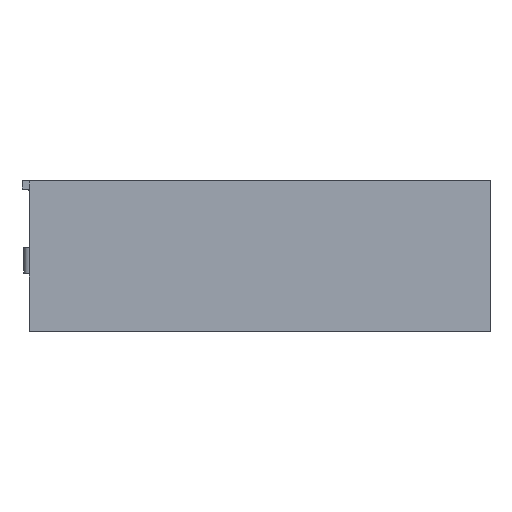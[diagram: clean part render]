
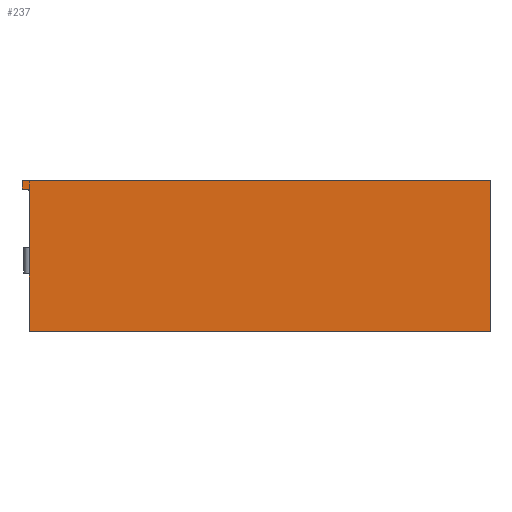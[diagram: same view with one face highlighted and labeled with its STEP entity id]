
A CAD part, top view. The second image highlights one B-rep face of the part: STEP entity #237.
In plain terms, the highlighted planar face has unit normal (0, 0, 1).
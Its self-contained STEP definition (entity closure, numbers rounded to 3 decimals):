
#32 = VERTEX_POINT('',#33);
#33 = CARTESIAN_POINT('',(-2.6,0.,5.54));
#39 = EDGE_CURVE('',#32,#40,#42,.T.);
#40 = VERTEX_POINT('',#41);
#41 = CARTESIAN_POINT('',(205.4,0.,5.54));
#42 = LINE('',#43,#44);
#43 = CARTESIAN_POINT('',(0.,0.,5.54));
#44 = VECTOR('',#45,1.);
#45 = DIRECTION('',(1.,0.,0.));
#145 = VERTEX_POINT('',#146);
#146 = CARTESIAN_POINT('',(-3.2,-0.6,5.54));
#152 = EDGE_CURVE('',#32,#145,#153,.T.);
#153 = CIRCLE('',#154,0.6);
#154 = AXIS2_PLACEMENT_3D('',#155,#156,#157);
#155 = CARTESIAN_POINT('',(-2.6,-0.6,5.54));
#156 = DIRECTION('',(-0.,0.,1.));
#157 = DIRECTION('',(0.,-1.,0.));
#168 = EDGE_CURVE('',#169,#171,#173,.T.);
#169 = VERTEX_POINT('',#170);
#170 = CARTESIAN_POINT('',(0.,-67.02,5.54));
#171 = VERTEX_POINT('',#172);
#172 = CARTESIAN_POINT('',(0.,-4.4,5.54));
#173 = LINE('',#174,#175);
#174 = CARTESIAN_POINT('',(0.,-67.02,5.54));
#175 = VECTOR('',#176,1.);
#176 = DIRECTION('',(0.,1.,0.));
#237 = ADVANCED_FACE('',(#238),#289,.T.);
#238 = FACE_BOUND('',#239,.T.);
#239 = EDGE_LOOP('',(#240,#241,#242,#250,#259,#267,#274,#275,#283));
#240 = ORIENTED_EDGE('',*,*,#39,.F.);
#241 = ORIENTED_EDGE('',*,*,#152,.T.);
#242 = ORIENTED_EDGE('',*,*,#243,.F.);
#243 = EDGE_CURVE('',#244,#145,#246,.T.);
#244 = VERTEX_POINT('',#245);
#245 = CARTESIAN_POINT('',(-3.2,-3.2,5.54));
#246 = LINE('',#247,#248);
#247 = CARTESIAN_POINT('',(-3.2,-3.8,5.54));
#248 = VECTOR('',#249,1.);
#249 = DIRECTION('',(0.,1.,0.));
#250 = ORIENTED_EDGE('',*,*,#251,.T.);
#251 = EDGE_CURVE('',#244,#252,#254,.T.);
#252 = VERTEX_POINT('',#253);
#253 = CARTESIAN_POINT('',(-2.6,-3.8,5.54));
#254 = CIRCLE('',#255,0.6);
#255 = AXIS2_PLACEMENT_3D('',#256,#257,#258);
#256 = CARTESIAN_POINT('',(-2.6,-3.2,5.54));
#257 = DIRECTION('',(-0.,0.,1.));
#258 = DIRECTION('',(0.,-1.,0.));
#259 = ORIENTED_EDGE('',*,*,#260,.F.);
#260 = EDGE_CURVE('',#261,#252,#263,.T.);
#261 = VERTEX_POINT('',#262);
#262 = CARTESIAN_POINT('',(-0.6,-3.8,5.54));
#263 = LINE('',#264,#265);
#264 = CARTESIAN_POINT('',(0.,-3.8,5.54));
#265 = VECTOR('',#266,1.);
#266 = DIRECTION('',(-1.,0.,0.));
#267 = ORIENTED_EDGE('',*,*,#268,.T.);
#268 = EDGE_CURVE('',#261,#171,#269,.T.);
#269 = CIRCLE('',#270,0.6);
#270 = AXIS2_PLACEMENT_3D('',#271,#272,#273);
#271 = CARTESIAN_POINT('',(-0.6,-4.4,5.54));
#272 = DIRECTION('',(-0.,-0.,-1.));
#273 = DIRECTION('',(0.,-1.,0.));
#274 = ORIENTED_EDGE('',*,*,#168,.F.);
#275 = ORIENTED_EDGE('',*,*,#276,.F.);
#276 = EDGE_CURVE('',#277,#169,#279,.T.);
#277 = VERTEX_POINT('',#278);
#278 = CARTESIAN_POINT('',(205.4,-67.02,5.54));
#279 = LINE('',#280,#281);
#280 = CARTESIAN_POINT('',(205.4,-67.02,5.54));
#281 = VECTOR('',#282,1.);
#282 = DIRECTION('',(-1.,0.,0.));
#283 = ORIENTED_EDGE('',*,*,#284,.F.);
#284 = EDGE_CURVE('',#40,#277,#285,.T.);
#285 = LINE('',#286,#287);
#286 = CARTESIAN_POINT('',(205.4,0.,5.54));
#287 = VECTOR('',#288,1.);
#288 = DIRECTION('',(0.,-1.,0.));
#289 = PLANE('',#290);
#290 = AXIS2_PLACEMENT_3D('',#291,#292,#293);
#291 = CARTESIAN_POINT('',(101.467,-33.143,5.54));
#292 = DIRECTION('',(0.,0.,1.));
#293 = DIRECTION('',(1.,0.,0.));
